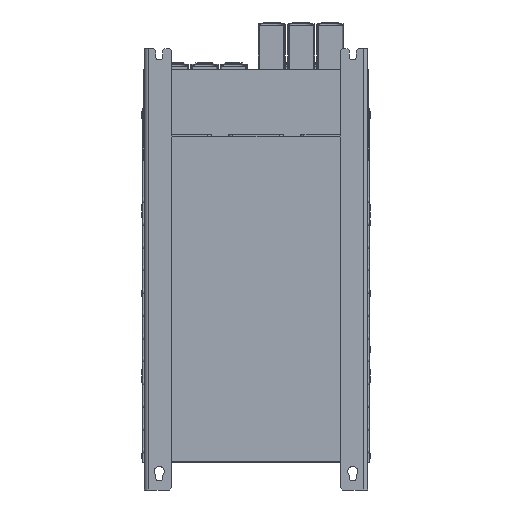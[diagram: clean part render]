
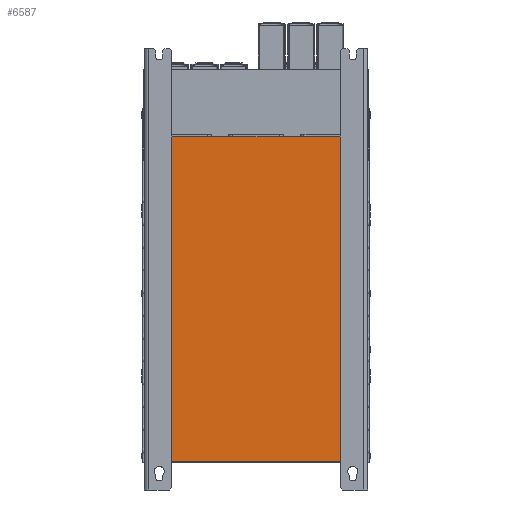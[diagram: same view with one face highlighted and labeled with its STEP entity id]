
A CAD part, front view. The second image highlights one B-rep face of the part: STEP entity #6587.
In plain terms, the highlighted planar face has unit normal (0, -1, 0).
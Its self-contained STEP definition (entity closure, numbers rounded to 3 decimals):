
#2 = VECTOR ( 'NONE', #88452, 1000. ) ;
#1475 = DIRECTION ( 'NONE',  ( 0., 0., -1. ) ) ;
#2236 = ORIENTED_EDGE ( 'NONE', *, *, #76856, .T. ) ;
#3239 = LINE ( 'NONE', #41105, #87556 ) ;
#4605 = DIRECTION ( 'NONE',  ( -1., 0., 0. ) ) ;
#5242 = VECTOR ( 'NONE', #4605, 1000. ) ;
#5517 = CARTESIAN_POINT ( 'NONE',  ( 236., -125., 0. ) ) ;
#6587 = ADVANCED_FACE ( 'NONE', ( #6844 ), #88789, .F. ) ;
#6844 = FACE_OUTER_BOUND ( 'NONE', #43718, .T. ) ;
#6861 = VERTEX_POINT ( 'NONE', #94982 ) ;
#7328 = CARTESIAN_POINT ( 'NONE',  ( 224., -125., -800. ) ) ;
#9042 = VERTEX_POINT ( 'NONE', #31379 ) ;
#10975 = VERTEX_POINT ( 'NONE', #75772 ) ;
#11491 = CARTESIAN_POINT ( 'NONE',  ( -236., -125., 115.001 ) ) ;
#15003 = EDGE_CURVE ( 'NONE', #16611, #68533, #3239, .T. ) ;
#15576 = CARTESIAN_POINT ( 'NONE',  ( -233., -125., 0. ) ) ;
#16611 = VERTEX_POINT ( 'NONE', #5517 ) ;
#16648 = CARTESIAN_POINT ( 'NONE',  ( -236., -125., 115.001 ) ) ;
#21708 = EDGE_CURVE ( 'NONE', #57636, #10975, #61499, .T. ) ;
#23467 = LINE ( 'NONE', #53091, #2 ) ;
#25160 = CARTESIAN_POINT ( 'NONE',  ( -244., -125., -598. ) ) ;
#27213 = CARTESIAN_POINT ( 'NONE',  ( 236., -125., 115.001 ) ) ;
#27235 = VECTOR ( 'NONE', #31127, 1000. ) ;
#31127 = DIRECTION ( 'NONE',  ( 1., 0., 0. ) ) ;
#31379 = CARTESIAN_POINT ( 'NONE',  ( 233., -125., -598. ) ) ;
#35016 = CARTESIAN_POINT ( 'NONE',  ( 233., -125., -800. ) ) ;
#37019 = EDGE_CURVE ( 'NONE', #9042, #79014, #71881, .T. ) ;
#37445 = CARTESIAN_POINT ( 'NONE',  ( -236., -125., 0. ) ) ;
#37793 = VECTOR ( 'NONE', #74758, 1000. ) ;
#41105 = CARTESIAN_POINT ( 'NONE',  ( 236., -125., 0.001 ) ) ;
#43718 = EDGE_LOOP ( 'NONE', ( #48382, #72088, #75068, #64885, #95969, #2236, #68314, #58139 ) ) ;
#44449 = VERTEX_POINT ( 'NONE', #67282 ) ;
#44566 = AXIS2_PLACEMENT_3D ( 'NONE', #7328, #74750, #1475 ) ;
#46958 = DIRECTION ( 'NONE',  ( 0., 0., -1. ) ) ;
#48382 = ORIENTED_EDGE ( 'NONE', *, *, #77401, .T. ) ;
#50533 = VECTOR ( 'NONE', #50538, 1000. ) ;
#50538 = DIRECTION ( 'NONE',  ( 0., 0., 1. ) ) ;
#53091 = CARTESIAN_POINT ( 'NONE',  ( -236., -125., 0. ) ) ;
#54784 = DIRECTION ( 'NONE',  ( 1., 0., 0. ) ) ;
#57636 = VERTEX_POINT ( 'NONE', #16648 ) ;
#58139 = ORIENTED_EDGE ( 'NONE', *, *, #67459, .T. ) ;
#58141 = VECTOR ( 'NONE', #54784, 1000. ) ;
#59054 = EDGE_CURVE ( 'NONE', #79014, #16611, #23467, .T. ) ;
#61203 = LINE ( 'NONE', #15576, #37793 ) ;
#61499 = LINE ( 'NONE', #11491, #75801 ) ;
#64885 = ORIENTED_EDGE ( 'NONE', *, *, #59054, .T. ) ;
#65998 = EDGE_CURVE ( 'NONE', #6861, #9042, #70282, .T. ) ;
#67282 = CARTESIAN_POINT ( 'NONE',  ( -233., -125., 0. ) ) ;
#67459 = EDGE_CURVE ( 'NONE', #10975, #44449, #90260, .T. ) ;
#68314 = ORIENTED_EDGE ( 'NONE', *, *, #21708, .T. ) ;
#68533 = VERTEX_POINT ( 'NONE', #27213 ) ;
#70282 = LINE ( 'NONE', #25160, #58141 ) ;
#70696 = DIRECTION ( 'NONE',  ( 0., 0., 1. ) ) ;
#71881 = LINE ( 'NONE', #35016, #50533 ) ;
#72088 = ORIENTED_EDGE ( 'NONE', *, *, #65998, .T. ) ;
#72633 = CARTESIAN_POINT ( 'NONE',  ( 233., -125., 0. ) ) ;
#74750 = DIRECTION ( 'NONE',  ( 0., 1., 0. ) ) ;
#74758 = DIRECTION ( 'NONE',  ( 0., 0., -1. ) ) ;
#75068 = ORIENTED_EDGE ( 'NONE', *, *, #37019, .T. ) ;
#75772 = CARTESIAN_POINT ( 'NONE',  ( -236., -125., 0. ) ) ;
#75801 = VECTOR ( 'NONE', #46958, 1000. ) ;
#76856 = EDGE_CURVE ( 'NONE', #68533, #57636, #78800, .T. ) ;
#77401 = EDGE_CURVE ( 'NONE', #44449, #6861, #61203, .T. ) ;
#77853 = CARTESIAN_POINT ( 'NONE',  ( -239.5, -125., 115.001 ) ) ;
#78800 = LINE ( 'NONE', #77853, #5242 ) ;
#79014 = VERTEX_POINT ( 'NONE', #72633 ) ;
#87556 = VECTOR ( 'NONE', #70696, 1000. ) ;
#88452 = DIRECTION ( 'NONE',  ( 1., 0., 0. ) ) ;
#88789 = PLANE ( 'NONE',  #44566 ) ;
#90260 = LINE ( 'NONE', #37445, #27235 ) ;
#94982 = CARTESIAN_POINT ( 'NONE',  ( -233., -125., -598. ) ) ;
#95969 = ORIENTED_EDGE ( 'NONE', *, *, #15003, .T. ) ;
